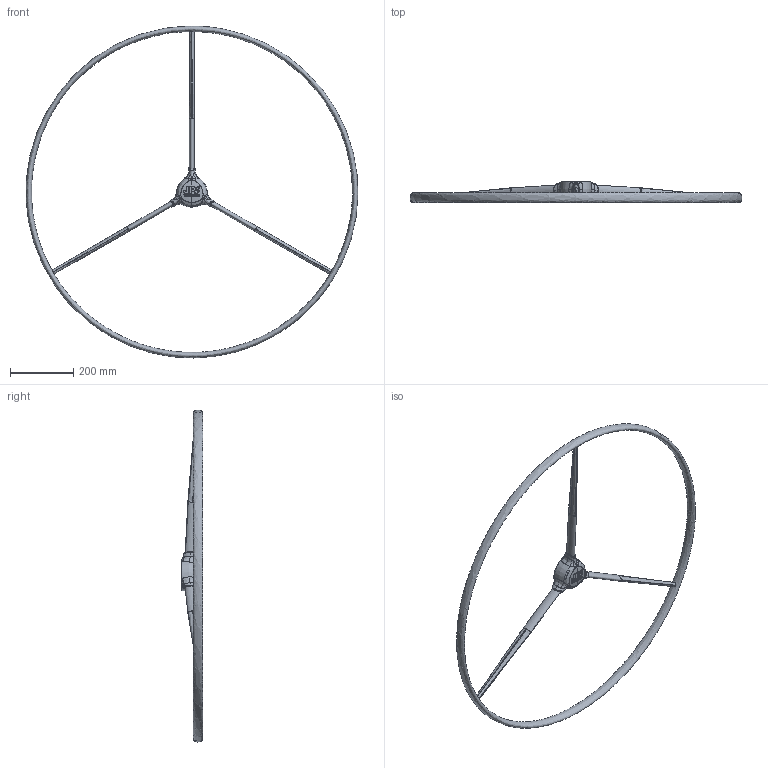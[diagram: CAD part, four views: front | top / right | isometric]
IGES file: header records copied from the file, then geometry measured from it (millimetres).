
Start section: Missler Software BP 521, 31674 Labege Cedex, France Tel   : +33 (0)5 61 00 03 00 Fax   : +33 (0)5 61 00 03 03 Email : sup.topsolid@topsolid.com
Global section: file name: 15HZ:\J\Jp3\Barre; native system: Rhinoceros ( Jul  7 2007 ); preprocessor: Trout Lake IGES 012 Jul  7 2007; date: 120223.140338; units: millimetre
Bounding box: 1049.42 x 68.5 x 1049.98 mm (x, y, z)
Surface area: 490351.1 mm2 (no closed solid volume)
Topology: 0 solids, 0 shells, 198 faces, 10786 edges, 10779 vertices
Faces by surface type: bspline 198
